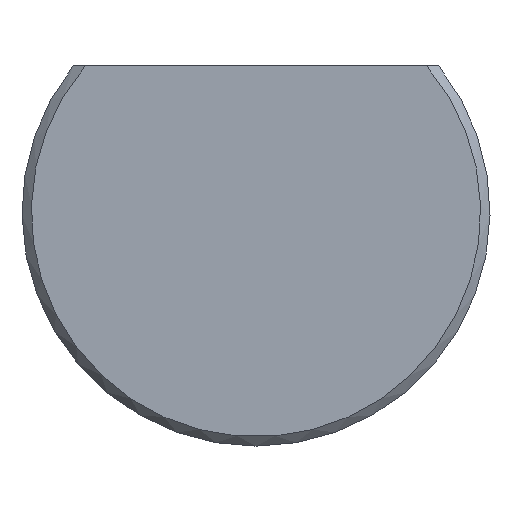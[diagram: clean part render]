
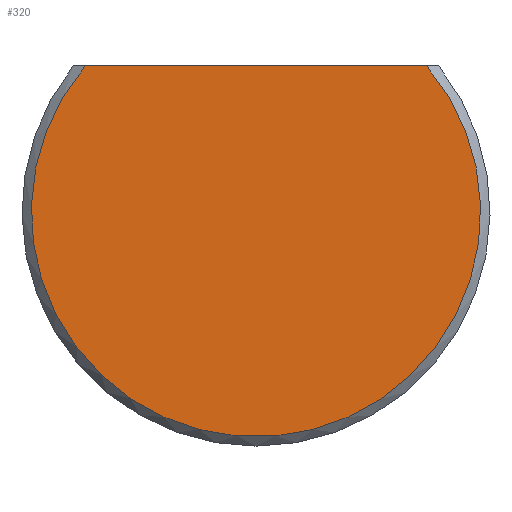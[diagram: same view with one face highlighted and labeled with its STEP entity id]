
A CAD part, front view. The second image highlights one B-rep face of the part: STEP entity #320.
In plain terms, the highlighted planar face has unit normal (0, -1, 0).
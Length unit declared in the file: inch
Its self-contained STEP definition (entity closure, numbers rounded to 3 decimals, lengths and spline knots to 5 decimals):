
#3 = DIRECTION ( 'NONE',  ( 0., 0., -1. ) ) ;
#8 = VECTOR ( 'NONE', #173, 39.37008 ) ;
#14 = EDGE_LOOP ( 'NONE', ( #122, #103 ) ) ;
#50 = AXIS2_PLACEMENT_3D ( 'NONE', #291, #235, #3 ) ;
#51 = CARTESIAN_POINT ( 'NONE',  ( -0.19516, 0., 0.15625 ) ) ;
#64 = DIRECTION ( 'NONE',  ( 0., 0., -1. ) ) ;
#72 = FACE_OUTER_BOUND ( 'NONE', #14, .T. ) ;
#103 = ORIENTED_EDGE ( 'NONE', *, *, #400, .T. ) ;
#119 = CARTESIAN_POINT ( 'NONE',  ( 0.18217, 0., 0.15625 ) ) ;
#122 = ORIENTED_EDGE ( 'NONE', *, *, #316, .T. ) ;
#173 = DIRECTION ( 'NONE',  ( -1., 0., 0. ) ) ;
#181 = VERTEX_POINT ( 'NONE', #119 ) ;
#207 = CARTESIAN_POINT ( 'NONE',  ( -0.18217, 0., 0.15625 ) ) ;
#235 = DIRECTION ( 'NONE',  ( 0., -1., 0. ) ) ;
#257 = DIRECTION ( 'NONE',  ( 0., -1., 0. ) ) ;
#281 = AXIS2_PLACEMENT_3D ( 'NONE', #383, #257, #64 ) ;
#291 = CARTESIAN_POINT ( 'NONE',  ( 0., 0., 0. ) ) ;
#316 = EDGE_CURVE ( 'NONE', #366, #181, #408, .T. ) ;
#320 = ADVANCED_FACE ( 'NONE', ( #72 ), #385, .T. ) ;
#363 = LINE ( 'NONE', #51, #8 ) ;
#366 = VERTEX_POINT ( 'NONE', #207 ) ;
#383 = CARTESIAN_POINT ( 'NONE',  ( 0., 0., 0. ) ) ;
#385 = PLANE ( 'NONE',  #281 ) ;
#400 = EDGE_CURVE ( 'NONE', #181, #366, #363, .T. ) ;
#408 = CIRCLE ( 'NONE', #50, 0.24 ) ;
